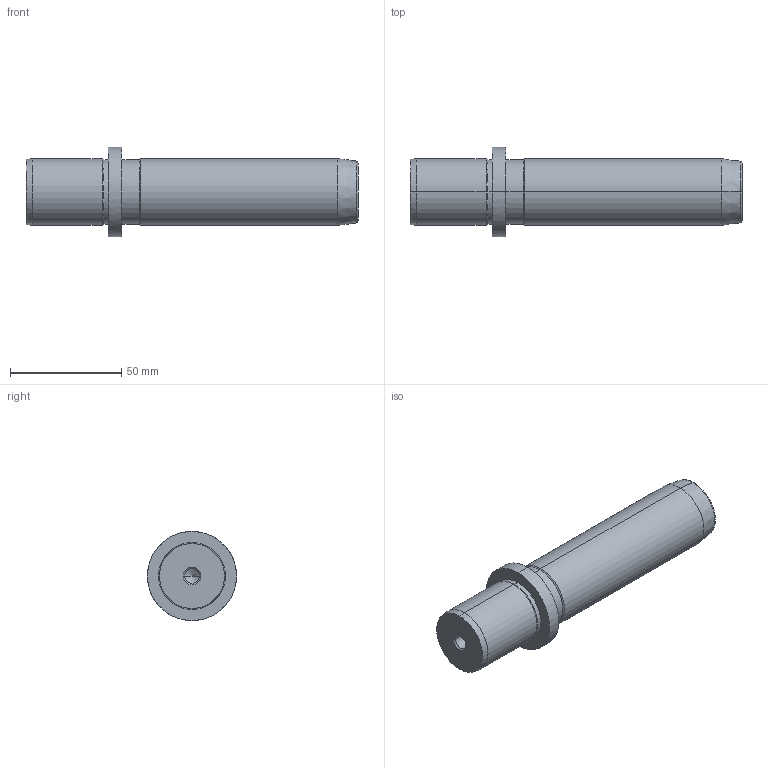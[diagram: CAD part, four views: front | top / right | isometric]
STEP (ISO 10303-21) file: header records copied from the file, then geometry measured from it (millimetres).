
FILE_DESCRIPTION(('CATIA V5 STEP Exchange'),'2;1');
FILE_NAME('C:\Users\Utente\Desktop\IO LAVORO\3D X SITO CF\X SITO\718\718-30x112.stp','2021-01-02T13:18:21+00:00',('none'),('none'),'CATIA Version 5 Release 20 GA (IN-10)','CATIA V5 STEP AP203','none');
FILE_SCHEMA(('CONFIG_CONTROL_DESIGN'));
Length unit declared in the file: millimetre
Products named in the file (1): 718-30x112
Bounding box: 149 x 40 x 40 mm (x, y, z)
Volume: 105811.6 mm3; surface area: 17623.9 mm2
Topology: 1 solids, 1 shells, 36 faces, 100 edges, 66 vertices
Faces by surface type: cone 16, cylinder 14, plane 4, torus 2
Entity records: 1291 total; most frequent: CARTESIAN_POINT 362, ORIENTED_EDGE 192, DIRECTION 157, EDGE_CURVE 96, AXIS2_PLACEMENT_3D 92, VERTEX_POINT 66, CIRCLE 55, EDGE_LOOP 40
